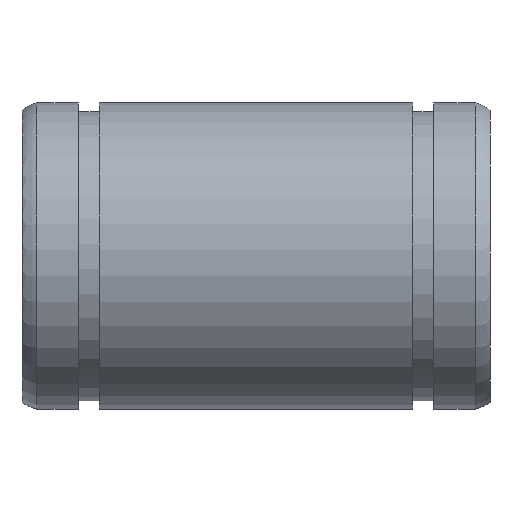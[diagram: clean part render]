
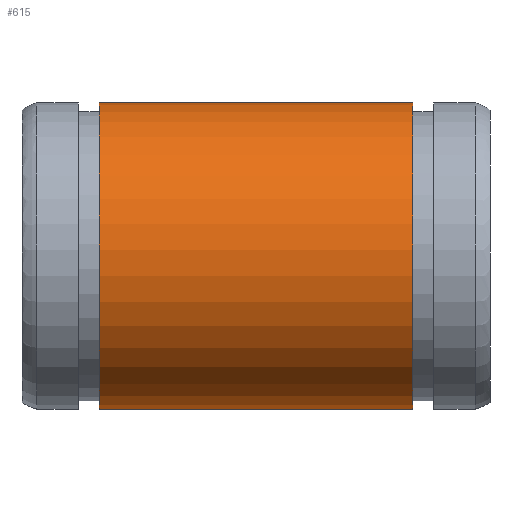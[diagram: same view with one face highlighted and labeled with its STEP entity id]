
A CAD part, front view. The second image highlights one B-rep face of the part: STEP entity #615.
In plain terms, the highlighted cylindrical face has radius 9.5 mm (diameter 19 mm), a partial arc.
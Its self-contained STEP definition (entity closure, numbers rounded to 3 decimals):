
#177=CARTESIAN_POINT('',(4.8,0.75,-9.47));
#178=VERTEX_POINT('',#177);
#185=CARTESIAN_POINT('',(24.2,0.75,-9.47));
#186=VERTEX_POINT('',#185);
#187=CARTESIAN_POINT('',(24.2,0.75,-9.47));
#188=DIRECTION('',(-1.0,0.0,0.0));
#189=VECTOR('',#188,19.4);
#190=LINE('',#187,#189);
#191=EDGE_CURVE('',#186,#178,#190,.T.);
#233=CARTESIAN_POINT('',(24.2,-0.75,-9.47));
#234=VERTEX_POINT('',#233);
#241=CARTESIAN_POINT('',(4.8,-0.75,-9.47));
#242=VERTEX_POINT('',#241);
#243=CARTESIAN_POINT('',(4.8,-0.75,-9.47));
#244=DIRECTION('',(1.0,0.0,0.0));
#245=VECTOR('',#244,19.4);
#246=LINE('',#243,#245);
#247=EDGE_CURVE('',#242,#234,#246,.T.);
#588=CARTESIAN_POINT('',(24.2,0.0,0.));
#589=DIRECTION('',(-1.0,0.0,0.0));
#590=DIRECTION('',(0.0,0.0,1.0));
#591=AXIS2_PLACEMENT_3D('',#588,#589,#590);
#592=CIRCLE('',#591,9.5);
#593=EDGE_CURVE('',#234,#186,#592,.T.);
#598=CARTESIAN_POINT('',(14.5,0.0,0.));
#599=DIRECTION('',(-1.0,0.0,0.));
#600=DIRECTION('',(0.0,0.0,1.0));
#601=AXIS2_PLACEMENT_3D('',#598,#599,#600);
#602=CYLINDRICAL_SURFACE('',#601,9.5);
#603=ORIENTED_EDGE('',*,*,#247,.T.);
#604=ORIENTED_EDGE('',*,*,#593,.T.);
#605=ORIENTED_EDGE('',*,*,#191,.T.);
#606=CARTESIAN_POINT('',(4.8,0.0,0.));
#607=DIRECTION('',(-1.0,0.0,0.0));
#608=DIRECTION('',(0.0,0.0,1.0));
#609=AXIS2_PLACEMENT_3D('',#606,#607,#608);
#610=CIRCLE('',#609,9.5);
#611=EDGE_CURVE('',#242,#178,#610,.T.);
#612=ORIENTED_EDGE('',*,*,#611,.F.);
#613=EDGE_LOOP('',(#603,#604,#605,#612));
#614=FACE_OUTER_BOUND('',#613,.T.);
#615=ADVANCED_FACE('',(#614),#602,.T.);
